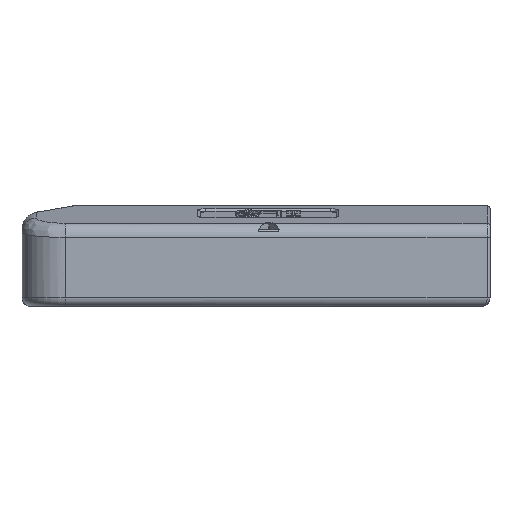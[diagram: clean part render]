
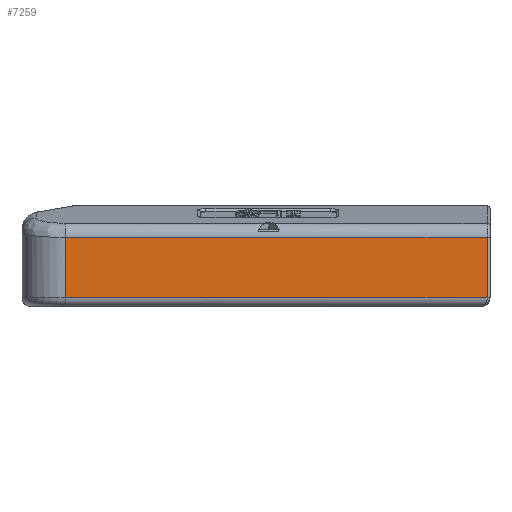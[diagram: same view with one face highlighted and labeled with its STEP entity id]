
A CAD part, front view. The second image highlights one B-rep face of the part: STEP entity #7259.
In plain terms, the highlighted planar face has unit normal (0, -1, 0).
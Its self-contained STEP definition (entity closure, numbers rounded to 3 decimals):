
#196=PLANE($,#7951);
#310=LINE($,#10163,#821);
#679=LINE($,#15026,#1190);
#694=LINE($,#15097,#1205);
#786=LINE($,#16079,#1297);
#821=VECTOR($,#8073,146.);
#1190=VECTOR($,#9184,20.87);
#1205=VECTOR($,#9273,146.);
#1297=VECTOR($,#9819,20.87);
#1883=FACE_OUTER_BOUND($,#2341,.T.);
#2341=EDGE_LOOP($,(#6611,#6612,#6613,#6614));
#2882=VERTEX_POINT($,#10160);
#2883=VERTEX_POINT($,#10162);
#3337=VERTEX_POINT($,#15019);
#3357=VERTEX_POINT($,#15096);
#3533=EDGE_CURVE($,#2882,#2883,#310,.T.);
#4266=EDGE_CURVE($,#2883,#3337,#679,.T.);
#4302=EDGE_CURVE($,#3337,#3357,#694,.T.);
#4534=EDGE_CURVE($,#2882,#3357,#786,.T.);
#6611=ORIENTED_EDGE($,*,*,#4266,.F.);
#6612=ORIENTED_EDGE($,*,*,#3533,.F.);
#6613=ORIENTED_EDGE($,*,*,#4534,.T.);
#6614=ORIENTED_EDGE($,*,*,#4302,.F.);
#7259=ADVANCED_FACE($,(#1883),#196,.T.);
#7951=AXIS2_PLACEMENT_3D($,#16081,#9822,#9823);
#8073=DIRECTION($,(1.,0.,0.));
#9184=DIRECTION($,(0.,0.,-1.));
#9273=DIRECTION($,(-1.,0.,0.));
#9819=DIRECTION($,(0.,0.,-1.));
#9822=DIRECTION('center_axis',(0.,-1.,0.));
#9823=DIRECTION('ref_axis',(0.,0.,-1.));
#10160=CARTESIAN_POINT('',(15.,0.,23.87));
#10162=CARTESIAN_POINT('',(161.,0.,23.87));
#10163=CARTESIAN_POINT($,(0.,0.,23.87));
#15019=CARTESIAN_POINT('',(161.,0.,3.));
#15026=CARTESIAN_POINT($,(161.,0.,19.678));
#15096=CARTESIAN_POINT('',(15.,0.,3.));
#15097=CARTESIAN_POINT($,(0.,0.,3.));
#16079=CARTESIAN_POINT($,(15.,0.,0.));
#16081=CARTESIAN_POINT('Origin',(0.,0.,28.065));
